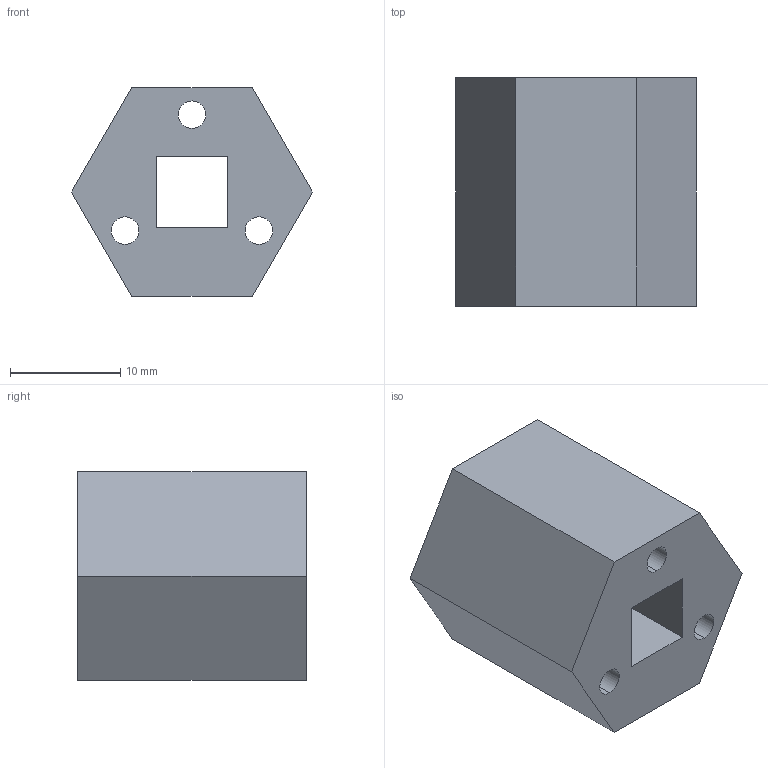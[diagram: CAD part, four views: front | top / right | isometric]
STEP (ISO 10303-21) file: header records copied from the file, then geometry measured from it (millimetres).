
FILE_DESCRIPTION (( 'STEP AP214' ), '1' );
FILE_NAME ('TorqueAdapter.STEP', '2025-04-17T11:44:33', ( '' ), ( '' ), 'SwSTEP 2.0', 'SolidWorks 2024', '' );
FILE_SCHEMA (( 'AUTOMOTIVE_DESIGN' ));
Length unit declared in the file: millimetre
Products named in the file (1): TorqueAdapter
Bounding box: 21.82 x 20.7 x 18.9 mm (x, y, z)
Volume: 5224.2 mm3; surface area: 2885.9 mm2
Topology: 1 solids, 1 shells, 18 faces, 48 edges, 32 vertices
Faces by surface type: plane 12, cylinder 6
Entity records: 603 total; most frequent: CARTESIAN_POINT 99, DIRECTION 98, ORIENTED_EDGE 96, EDGE_CURVE 48, VECTOR 36, LINE 36, VERTEX_POINT 32, AXIS2_PLACEMENT_3D 31
